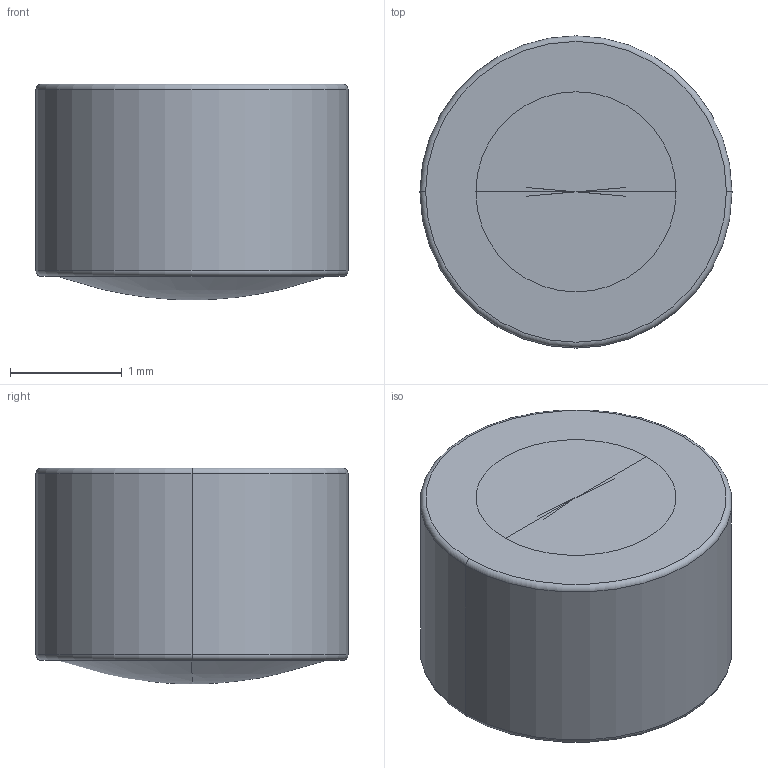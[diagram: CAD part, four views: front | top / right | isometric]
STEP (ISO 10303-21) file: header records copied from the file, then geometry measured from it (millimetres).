
FILE_DESCRIPTION((''),'2;1');
FILE_NAME('354550','2025-07-25T21:17:21',('admin'),('LIGHTPATH'),'CREO PARAMETRIC BY PTC INC, 2024063','CREO PARAMETRIC BY PTC INC, 2024063','');
FILE_SCHEMA(('CONFIG_CONTROL_DESIGN'));
Length unit declared in the file: millimetre
Products named in the file (1): 354550
Bounding box: 2.79 x 2.79 x 1.93 mm (x, y, z)
Volume: 11 mm3; surface area: 27.1 mm2
Topology: 1 solids, 1 shells, 14 faces, 30 edges, 16 vertices
Faces by surface type: torus 6, revolution 4, plane 2, cylinder 2
Entity records: 669 total; most frequent: CARTESIAN_POINT 333, DIRECTION 68, ORIENTED_EDGE 52, AXIS2_PLACEMENT_3D 30, EDGE_CURVE 26, CIRCLE 20, VERTEX_POINT 16, EDGE_LOOP 16
